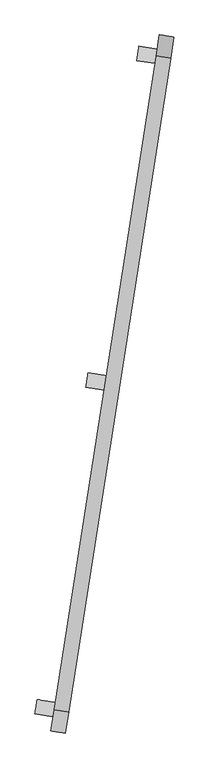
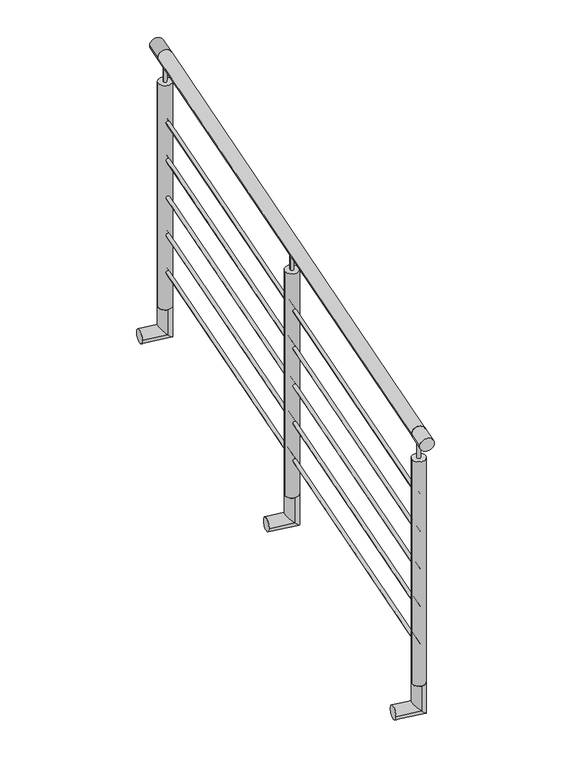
"""IFC4 building model written with IfcOpenShell, lengths in millimetres: railing geometry, Barandal acero inox - sobre ventana."""

from ifc_helpers import new_model, si_unit, point, frame, frame_2d, origin, origin_2d, place, context, project, spatial, circle_curve, ellipse_curve, trimmed, segment, composite_curve, outline, extrude, source, transform, mapped, element, save
from ifc_brep_helpers import plane_surface, cylinder_surface, advanced_brep


def railing_e069594b(model_context):
    return source(origin(), model_context, "Body", "SolidModel", [
        extrude(outline(composite_curve([segment(trimmed(circle_curve(origin_2d(), 25.4), [point((25.4000001, 0.0))], [point((-25.4, 0.0))], False, "CARTESIAN"), True, "CONTINUOUS"), segment(trimmed(circle_curve(origin_2d(), 25.4), [point((-25.4, 0.0))], [point((25.4000001, 0.0))], False, "CARTESIAN"), True, "CONTINUOUS")], self_intersect=False)), frame((-22264.2463351, -63614.1866721, 13800.0), z_axis=(0.1540098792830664, 0.9880693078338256, 0.0), x_axis=(0.9880693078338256, -0.1540098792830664, 0.0)), (0.0, 0.0, 1.0), 2310.0),
        extrude(outline(composite_curve([segment(trimmed(circle_curve(origin_2d(), 6.35), [point((6.3500001, 0.0))], [point((-6.35, 0.0))], False, "CARTESIAN"), True, "CONTINUOUS"), segment(trimmed(circle_curve(origin_2d(), 6.35), [point((-6.35, 0.0))], [point((6.3500001, 0.0))], False, "CARTESIAN"), True, "CONTINUOUS")], self_intersect=False)), frame((-22264.2463351, -63614.1866721, 13550.0), z_axis=(0.1540098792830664, 0.9880693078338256, 0.0), x_axis=(0.9880693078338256, -0.1540098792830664, 0.0)), (0.0, 0.0, 1.0), 2310.0),
        extrude(outline(composite_curve([segment(trimmed(circle_curve(origin_2d(), 6.35), [point((6.3500001, 0.0))], [point((-6.35, 0.0))], False, "CARTESIAN"), True, "CONTINUOUS"), segment(trimmed(circle_curve(origin_2d(), 6.35), [point((-6.35, 0.0))], [point((6.3500001, 0.0))], False, "CARTESIAN"), True, "CONTINUOUS")], self_intersect=False)), frame((-22264.2463351, -63614.1866721, 13400.0), z_axis=(0.1540098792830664, 0.9880693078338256, 0.0), x_axis=(0.9880693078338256, -0.1540098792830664, 0.0)), (0.0, 0.0, 1.0), 2310.0),
        extrude(outline(composite_curve([segment(trimmed(circle_curve(origin_2d(), 6.35), [point((6.3500001, 0.0))], [point((-6.35, 0.0))], False, "CARTESIAN"), True, "CONTINUOUS"), segment(trimmed(circle_curve(origin_2d(), 6.35), [point((-6.35, 0.0))], [point((6.3500001, 0.0))], False, "CARTESIAN"), True, "CONTINUOUS")], self_intersect=False)), frame((-22264.2463351, -63614.1866721, 13250.0), z_axis=(0.1540098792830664, 0.9880693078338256, 0.0), x_axis=(0.9880693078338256, -0.1540098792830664, 0.0)), (0.0, 0.0, 1.0), 2310.0),
        extrude(outline(composite_curve([segment(trimmed(circle_curve(origin_2d(), 6.35), [point((6.3500001, 0.0))], [point((-6.35, 0.0))], False, "CARTESIAN"), True, "CONTINUOUS"), segment(trimmed(circle_curve(origin_2d(), 6.35), [point((-6.35, 0.0))], [point((6.3500001, 0.0))], False, "CARTESIAN"), True, "CONTINUOUS")], self_intersect=False)), frame((-22264.2463351, -63614.1866721, 13100.0), z_axis=(0.1540098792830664, 0.9880693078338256, 0.0), x_axis=(0.9880693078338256, -0.1540098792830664, 0.0)), (0.0, 0.0, 1.0), 2310.0),
        extrude(outline(composite_curve([segment(trimmed(circle_curve(origin_2d(), 6.35), [point((6.3500001, 0.0))], [point((-6.35, 0.0))], False, "CARTESIAN"), True, "CONTINUOUS"), segment(trimmed(circle_curve(origin_2d(), 6.35), [point((-6.35, 0.0))], [point((6.3500001, 0.0))], False, "CARTESIAN"), True, "CONTINUOUS")], self_intersect=False)), frame((-22264.2463351, -63614.1866721, 12950.0), z_axis=(0.1540098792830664, 0.9880693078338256, 0.0), x_axis=(0.9880693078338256, -0.1540098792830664, 0.0)), (0.0, 0.0, 1.0), 2310.0),
        advanced_brep(
        [(-22090.2767754, -62498.0635819, 12800.0), (-22082.4530735, -62447.8696611, 12800.0), (-22082.4530735, -62447.8696611, 12700.0), (-22090.2767754, -62498.0635819, 12700.0), (-22179.2030131, -62484.2026928, 12700.0), (-22171.3793113, -62434.008772, 12700.0)],
        [
            (0, 1, circle_curve(frame((-22086.3649245, -62472.9666215, 12800.0), z_axis=(0.0, 0.0, 1.0), x_axis=(0.1540098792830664, 0.9880693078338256, 0.0)), 25.4)),
            (1, 0, circle_curve(frame((-22086.3649245, -62472.9666215, 12800.0), z_axis=(0.0, 0.0, 1.0), x_axis=(0.1540098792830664, 0.9880693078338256, 0.0)), 25.4)),
            (1, 2),
            (2, 3, ellipse_curve(frame((-22086.3649245, -62472.9666215, 12700.0), z_axis=(0.6986705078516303, -0.10890143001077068, 0.7071067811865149), x_axis=(-0.6986705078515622, 0.10890143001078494, 0.7071067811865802)), 35.9210245, 25.4)),
            (3, 0),
            (3, 2, ellipse_curve(frame((-22086.3649245, -62472.9666215, 12700.0), z_axis=(0.6986705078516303, -0.10890143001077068, 0.7071067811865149), x_axis=(-0.6986705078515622, 0.10890143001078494, 0.7071067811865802)), 35.9210245, 25.4)),
            (4, 5, circle_curve(frame((-22175.2911622, -62459.1057324, 12700.0), z_axis=(-0.9880693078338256, 0.1540098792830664, 0.0), x_axis=(0.1540098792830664, 0.9880693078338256, 0.0)), 25.4)),
            (5, 4, circle_curve(frame((-22175.2911622, -62459.1057324, 12700.0), z_axis=(-0.9880693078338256, 0.1540098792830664, 0.0), x_axis=(0.1540098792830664, 0.9880693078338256, 0.0)), 25.4)),
            (2, 5),
            (4, 3),
        ],
        [
            plane_surface(frame((-22086.3649245, -62472.9666215, 12800.0), z_axis=(0.0, 0.0, 1.0), x_axis=(0.1540098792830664, 0.9880693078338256, 0.0))),
            cylinder_surface(frame((-22086.3649245, -62472.9666215, 12800.0), z_axis=(0.0, 0.0, 1.0), x_axis=(0.1540098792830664, 0.9880693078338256, 0.0)), 25.4),
            plane_surface(frame((-22175.2911622, -62459.1057324, 12700.0), z_axis=(-0.9880693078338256, 0.1540098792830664, 0.0), x_axis=(0.1540098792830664, 0.9880693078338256, 0.0))),
            cylinder_surface(frame((-22086.3649245, -62472.9666215, 12700.0), z_axis=(0.9880693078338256, -0.1540098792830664, 0.0), x_axis=(0.1540098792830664, 0.9880693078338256, 0.0)), 25.4),
        ],
        [
            (0, [[1, 2]]),
            (1, [[3, 4, 5, -2]]),
            (1, [[-5, 6, -3, -1]]),
            (2, [[7, 8]]),
            (3, [[9, -7, 10, -4]]),
            (3, [[-10, -8, -9, -6]]),
        ],
    ),
        extrude(outline(composite_curve([segment(trimmed(circle_curve(frame_2d((-22086.3649245, -62472.9666215)), 6.35), [point((-22092.6391646, -62471.9886588))], [point((-22080.0906844, -62473.9445842))], False, "CARTESIAN"), True, "CONTINUOUS"), segment(trimmed(circle_curve(frame_2d((-22086.3649245, -62472.9666215)), 6.35), [point((-22080.0906844, -62473.9445842))], [point((-22092.6391646, -62471.9886588))], False, "CARTESIAN"), True, "CONTINUOUS")], self_intersect=False)), frame((0.0, 0.0, 13699.6), z_axis=(0.0, 0.0, 1.0), x_axis=(1.0, 0.0, 0.0)), (0.0, 0.0, 1.0), 75.0),
        extrude(outline(composite_curve([segment(trimmed(circle_curve(frame_2d((-22086.3649245, -62472.9666215)), 25.4), [point((-22111.4618849, -62469.0547706))], [point((-22061.2679641, -62476.8784724))], False, "CARTESIAN"), True, "CONTINUOUS"), segment(trimmed(circle_curve(frame_2d((-22086.3649245, -62472.9666215)), 25.4), [point((-22061.2679641, -62476.8784724))], [point((-22111.4618849, -62469.0547706))], False, "CARTESIAN"), True, "CONTINUOUS")], self_intersect=False)), frame((0.0, 0.0, 12800.0), z_axis=(0.0, 0.0, 1.0), x_axis=(1.0, 0.0, 0.0)), (0.0, 0.0, 1.0), 899.6),
        advanced_brep(
        [(-21912.3953648, -61356.8435314, 12800.0), (-21904.571663, -61306.6496105, 12800.0), (-21904.571663, -61306.6496105, 12700.0), (-21912.3953648, -61356.8435314, 12700.0), (-22001.3216025, -61342.9826422, 12700.0), (-21993.4979007, -61292.7887214, 12700.0)],
        [
            (0, 1, circle_curve(frame((-21908.4835139, -61331.746571, 12800.0), z_axis=(0.0, 0.0, 1.0), x_axis=(0.1540098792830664, 0.9880693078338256, 0.0)), 25.4)),
            (1, 0, circle_curve(frame((-21908.4835139, -61331.746571, 12800.0), z_axis=(0.0, 0.0, 1.0), x_axis=(0.1540098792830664, 0.9880693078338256, 0.0)), 25.4)),
            (1, 2),
            (2, 3, ellipse_curve(frame((-21908.4835139, -61331.746571, 12700.0), z_axis=(0.6986705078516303, -0.10890143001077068, 0.7071067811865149), x_axis=(-0.6986705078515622, 0.10890143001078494, 0.7071067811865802)), 35.9210245, 25.4)),
            (3, 0),
            (3, 2, ellipse_curve(frame((-21908.4835139, -61331.746571, 12700.0), z_axis=(0.6986705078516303, -0.10890143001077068, 0.7071067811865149), x_axis=(-0.6986705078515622, 0.10890143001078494, 0.7071067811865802)), 35.9210245, 25.4)),
            (4, 5, circle_curve(frame((-21997.4097516, -61317.8856818, 12700.0), z_axis=(-0.9880693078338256, 0.1540098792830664, 0.0), x_axis=(0.1540098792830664, 0.9880693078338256, 0.0)), 25.4)),
            (5, 4, circle_curve(frame((-21997.4097516, -61317.8856818, 12700.0), z_axis=(-0.9880693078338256, 0.1540098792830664, 0.0), x_axis=(0.1540098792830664, 0.9880693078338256, 0.0)), 25.4)),
            (2, 5),
            (4, 3),
        ],
        [
            plane_surface(frame((-21908.4835139, -61331.746571, 12800.0), z_axis=(0.0, 0.0, 1.0), x_axis=(0.1540098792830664, 0.9880693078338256, 0.0))),
            cylinder_surface(frame((-21908.4835139, -61331.746571, 12800.0), z_axis=(0.0, 0.0, 1.0), x_axis=(0.1540098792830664, 0.9880693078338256, 0.0)), 25.4),
            plane_surface(frame((-21997.4097516, -61317.8856818, 12700.0), z_axis=(-0.9880693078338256, 0.1540098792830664, 0.0), x_axis=(0.1540098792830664, 0.9880693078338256, 0.0))),
            cylinder_surface(frame((-21908.4835139, -61331.746571, 12700.0), z_axis=(0.9880693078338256, -0.1540098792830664, 0.0), x_axis=(0.1540098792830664, 0.9880693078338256, 0.0)), 25.4),
        ],
        [
            (0, [[1, 2]]),
            (1, [[3, 4, 5, -2]]),
            (1, [[-5, 6, -3, -1]]),
            (2, [[7, 8]]),
            (3, [[9, -7, 10, -4]]),
            (3, [[-10, -8, -9, -6]]),
        ],
    ),
        extrude(outline(composite_curve([segment(trimmed(circle_curve(frame_2d((0.0, 25.4)), 25.4), [point((0.0, 50.8))], [point((0.0, 0.0))], False, "CARTESIAN"), True, "CONTINUOUS"), segment(trimmed(circle_curve(frame_2d((0.0, 25.4)), 25.4), [point((0.0, 0.0))], [point((0.0, 50.8))], False, "CARTESIAN"), True, "CONTINUOUS")], self_intersect=False)), frame((-21883.3865535, -61335.6584219, 13800.0), z_axis=(0.1540098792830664, 0.9880693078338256, 0.0), x_axis=(0.0, 0.0, -1.0)), (0.0, 0.0, 1.0), 75.0),
        extrude(outline(composite_curve([segment(trimmed(circle_curve(frame_2d((-21908.4835139, -61331.746571)), 6.35), [point((-21914.757754, -61330.7686082))], [point((-21902.2092738, -61332.7245337))], False, "CARTESIAN"), True, "CONTINUOUS"), segment(trimmed(circle_curve(frame_2d((-21908.4835139, -61331.746571)), 6.35), [point((-21902.2092738, -61332.7245337))], [point((-21914.757754, -61330.7686082))], False, "CARTESIAN"), True, "CONTINUOUS")], self_intersect=False)), frame((0.0, 0.0, 13699.6), z_axis=(0.0, 0.0, 1.0), x_axis=(1.0, 0.0, 0.0)), (0.0, 0.0, 1.0), 75.0),
        extrude(outline(composite_curve([segment(trimmed(circle_curve(frame_2d((-21908.4835139, -61331.746571)), 25.4), [point((-21933.5804743, -61327.83472))], [point((-21883.3865535, -61335.6584219))], False, "CARTESIAN"), True, "CONTINUOUS"), segment(trimmed(circle_curve(frame_2d((-21908.4835139, -61331.746571)), 25.4), [point((-21883.3865535, -61335.6584219))], [point((-21933.5804743, -61327.83472))], False, "CARTESIAN"), True, "CONTINUOUS")], self_intersect=False)), frame((0.0, 0.0, 12800.0), z_axis=(0.0, 0.0, 1.0), x_axis=(1.0, 0.0, 0.0)), (0.0, 0.0, 1.0), 899.6),
        advanced_brep(
        [(-22268.158186, -63639.2836325, 12800.0), (-22260.3344841, -63589.0897116, 12800.0), (-22260.3344841, -63589.0897116, 12700.0), (-22268.158186, -63639.2836325, 12700.0), (-22357.0844237, -63625.4227433, 12700.0), (-22349.2607218, -63575.2288225, 12700.0)],
        [
            (0, 1, circle_curve(frame((-22264.2463351, -63614.1866721, 12800.0), z_axis=(0.0, 0.0, 1.0), x_axis=(0.1540098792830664, 0.9880693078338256, 0.0)), 25.4)),
            (1, 0, circle_curve(frame((-22264.2463351, -63614.1866721, 12800.0), z_axis=(0.0, 0.0, 1.0), x_axis=(0.1540098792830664, 0.9880693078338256, 0.0)), 25.4)),
            (1, 2),
            (2, 3, ellipse_curve(frame((-22264.2463351, -63614.1866721, 12700.0), z_axis=(0.6986705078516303, -0.10890143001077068, 0.7071067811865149), x_axis=(-0.6986705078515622, 0.10890143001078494, 0.7071067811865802)), 35.9210245, 25.4)),
            (3, 0),
            (3, 2, ellipse_curve(frame((-22264.2463351, -63614.1866721, 12700.0), z_axis=(0.6986705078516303, -0.10890143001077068, 0.7071067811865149), x_axis=(-0.6986705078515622, 0.10890143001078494, 0.7071067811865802)), 35.9210245, 25.4)),
            (4, 5, circle_curve(frame((-22353.1725728, -63600.3257829, 12700.0), z_axis=(-0.9880693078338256, 0.1540098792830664, 0.0), x_axis=(0.1540098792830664, 0.9880693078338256, 0.0)), 25.4)),
            (5, 4, circle_curve(frame((-22353.1725728, -63600.3257829, 12700.0), z_axis=(-0.9880693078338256, 0.1540098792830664, 0.0), x_axis=(0.1540098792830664, 0.9880693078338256, 0.0)), 25.4)),
            (2, 5),
            (4, 3),
        ],
        [
            plane_surface(frame((-22264.2463351, -63614.1866721, 12800.0), z_axis=(0.0, 0.0, 1.0), x_axis=(0.1540098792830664, 0.9880693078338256, 0.0))),
            cylinder_surface(frame((-22264.2463351, -63614.1866721, 12800.0), z_axis=(0.0, 0.0, 1.0), x_axis=(0.1540098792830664, 0.9880693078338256, 0.0)), 25.4),
            plane_surface(frame((-22353.1725728, -63600.3257829, 12700.0), z_axis=(-0.9880693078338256, 0.1540098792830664, 0.0), x_axis=(0.1540098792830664, 0.9880693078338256, 0.0))),
            cylinder_surface(frame((-22264.2463351, -63614.1866721, 12700.0), z_axis=(0.9880693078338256, -0.1540098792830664, 0.0), x_axis=(0.1540098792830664, 0.9880693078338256, 0.0)), 25.4),
        ],
        [
            (0, [[1, 2]]),
            (1, [[3, 4, 5, -2]]),
            (1, [[-5, 6, -3, -1]]),
            (2, [[7, 8]]),
            (3, [[9, -7, 10, -4]]),
            (3, [[-10, -8, -9, -6]]),
        ],
    ),
        extrude(outline(composite_curve([segment(trimmed(circle_curve(frame_2d((0.0, 25.4)), 25.4), [point((0.0, 50.8))], [point((0.0, 0.0))], False, "CARTESIAN"), True, "CONTINUOUS"), segment(trimmed(circle_curve(frame_2d((0.0, 25.4)), 25.4), [point((0.0, 0.0))], [point((0.0, 50.8))], False, "CARTESIAN"), True, "CONTINUOUS")], self_intersect=False)), frame((-22250.7001156, -63692.2037211, 13800.0), z_axis=(0.1540098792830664, 0.9880693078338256, 0.0), x_axis=(0.0, 0.0, -1.0)), (0.0, 0.0, 1.0), 75.0),
        extrude(outline(composite_curve([segment(trimmed(circle_curve(frame_2d((-22264.2463351, -63614.1866721)), 6.35), [point((-22270.5205752, -63613.2087093))], [point((-22257.9720949, -63615.1646348))], False, "CARTESIAN"), True, "CONTINUOUS"), segment(trimmed(circle_curve(frame_2d((-22264.2463351, -63614.1866721)), 6.35), [point((-22257.9720949, -63615.1646348))], [point((-22270.5205752, -63613.2087093))], False, "CARTESIAN"), True, "CONTINUOUS")], self_intersect=False)), frame((0.0, 0.0, 13699.6), z_axis=(0.0, 0.0, 1.0), x_axis=(1.0, 0.0, 0.0)), (0.0, 0.0, 1.0), 75.0),
        extrude(outline(composite_curve([segment(trimmed(circle_curve(frame_2d((-22264.2463351, -63614.1866721)), 25.4), [point((-22289.3432955, -63610.2748211))], [point((-22239.1493746, -63618.098523))], False, "CARTESIAN"), True, "CONTINUOUS"), segment(trimmed(circle_curve(frame_2d((-22264.2463351, -63614.1866721)), 25.4), [point((-22239.1493746, -63618.098523))], [point((-22289.3432955, -63610.2748211))], False, "CARTESIAN"), True, "CONTINUOUS")], self_intersect=False)), frame((0.0, 0.0, 12800.0), z_axis=(0.0, 0.0, 1.0), x_axis=(1.0, 0.0, 0.0)), (0.0, 0.0, 1.0), 899.6),
    ])


if __name__ == "__main__":
    model = new_model("IFC4")
    model_context = context("Model", 3, world=origin())
    ifc_project = project(units=[si_unit("LENGTHUNIT", "METRE", prefix="MILLI")], contexts=[model_context])
    site = spatial("IfcSite", under=ifc_project)
    building = spatial("IfcBuilding", under=site)
    placement = place(None, origin())
    railing_shape = railing_e069594b(model_context)
    element("IfcRailing", 1, ObjectType="Barandal acero inox - sobre ventana", at=placement, inside=building, context=model_context, shape_type="MappedRepresentation", body=[
        mapped(railing_shape, transform((0.0, 0.0, 0.0), x_axis=(1.0, 0.0, 0.0), y_axis=(0.0, 1.0, 0.0), z_axis=(0.0, 0.0, 1.0))),
    ])
    save(model, "model.ifc")
